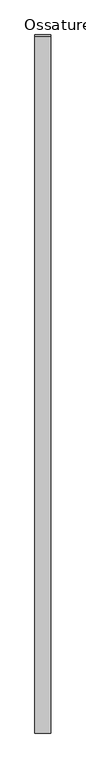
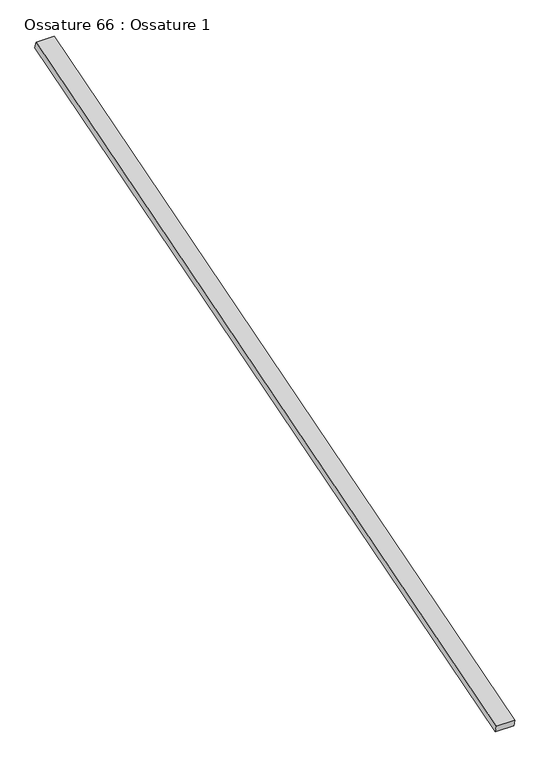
"""IFC4 building model written with IfcOpenShell, lengths in millimetres: beam geometry, Ossature 66 : Ossature 1."""

from ifc_helpers import new_model, si_unit, frame, origin, place, context, project, spatial, polyline, outline, extrude, source, transform, mapped, element, save


def ossature_66_ossature_1_aaf79ca5(model_context):
    return source(origin(), model_context, "Body", "SweptSolid", [
        extrude(outline(polyline([(0.0, 0.0), (0.0, -4543.0299679), (-100.0, -4543.0299679), (-100.0, 0.0), (0.0, 0.0)])), frame((16010.4466393, -833.3913565, 8153.6336115), z_axis=(0.0, -0.28734788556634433, 0.9578262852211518), x_axis=(-1.0, 0.0, 0.0)), (0.0, 0.0, 1.0), 40.0),
    ])


if __name__ == "__main__":
    model = new_model("IFC4")
    model_context = context("Model", 3, world=origin())
    ifc_project = project(units=[si_unit("LENGTHUNIT", "METRE", prefix="MILLI")], contexts=[model_context])
    site = spatial("IfcSite", under=ifc_project)
    building = spatial("IfcBuilding", under=site)
    placement = place(None, origin())
    ossature_66_ossature_1_shape = ossature_66_ossature_1_aaf79ca5(model_context)
    element("IfcBeam", 1, ObjectType="Ossature 66 : Ossature 1", at=placement, inside=building, context=model_context, shape_type="MappedRepresentation", body=[
        mapped(ossature_66_ossature_1_shape, transform((0.0, 0.0, 0.0), x_axis=(1.0, 0.0, 0.0), y_axis=(0.0, 1.0, 0.0), z_axis=(0.0, 0.0, 1.0))),
    ])
    save(model, "model.ifc")
